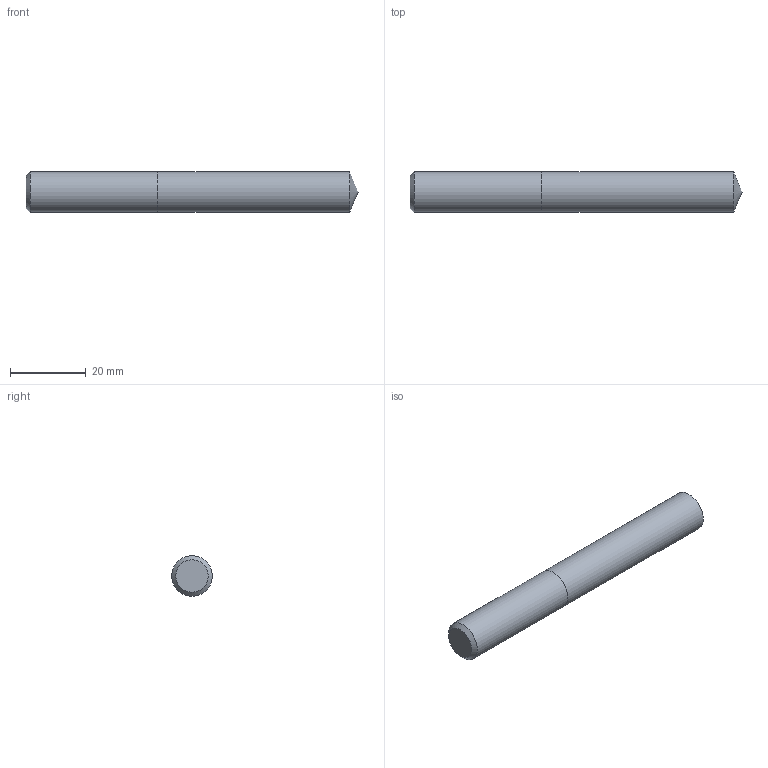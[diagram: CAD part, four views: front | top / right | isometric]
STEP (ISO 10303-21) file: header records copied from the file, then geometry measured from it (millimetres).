
FILE_DESCRIPTION (( 'STEP AP214' ), '1' );
FILE_NAME ('03-2426.STEP', '2022-06-03T07:37:10', ( 'USER' ), ( '' ), 'SwSTEP 2.0', 'SolidWorks 2018', '' );
FILE_SCHEMA (( 'AUTOMOTIVE_DESIGN' ));
Length unit declared in the file: inch
Products named in the file (1): 03-2426
Bounding box: 87.94 x 10.72 x 10.72 mm (x, y, z)
Volume: 7779.6 mm3; surface area: 3231.4 mm2
Topology: 2 solids, 2 shells, 7 faces, 11 edges, 7 vertices
Faces by surface type: plane 3, cylinder 2, cone 2
Full cylindrical faces by diameter (mm): 10.716 x2
Entity records: 214 total; most frequent: DIRECTION 26, CARTESIAN_POINT 18, AXIS2_PLACEMENT_3D 13, EDGE_LOOP 10, ORIENTED_EDGE 10, FACE_OUTER_BOUND 9, UNCERTAINTY_MEASURE_WITH_UNIT 7, DIMENSIONAL_EXPONENTS 7
